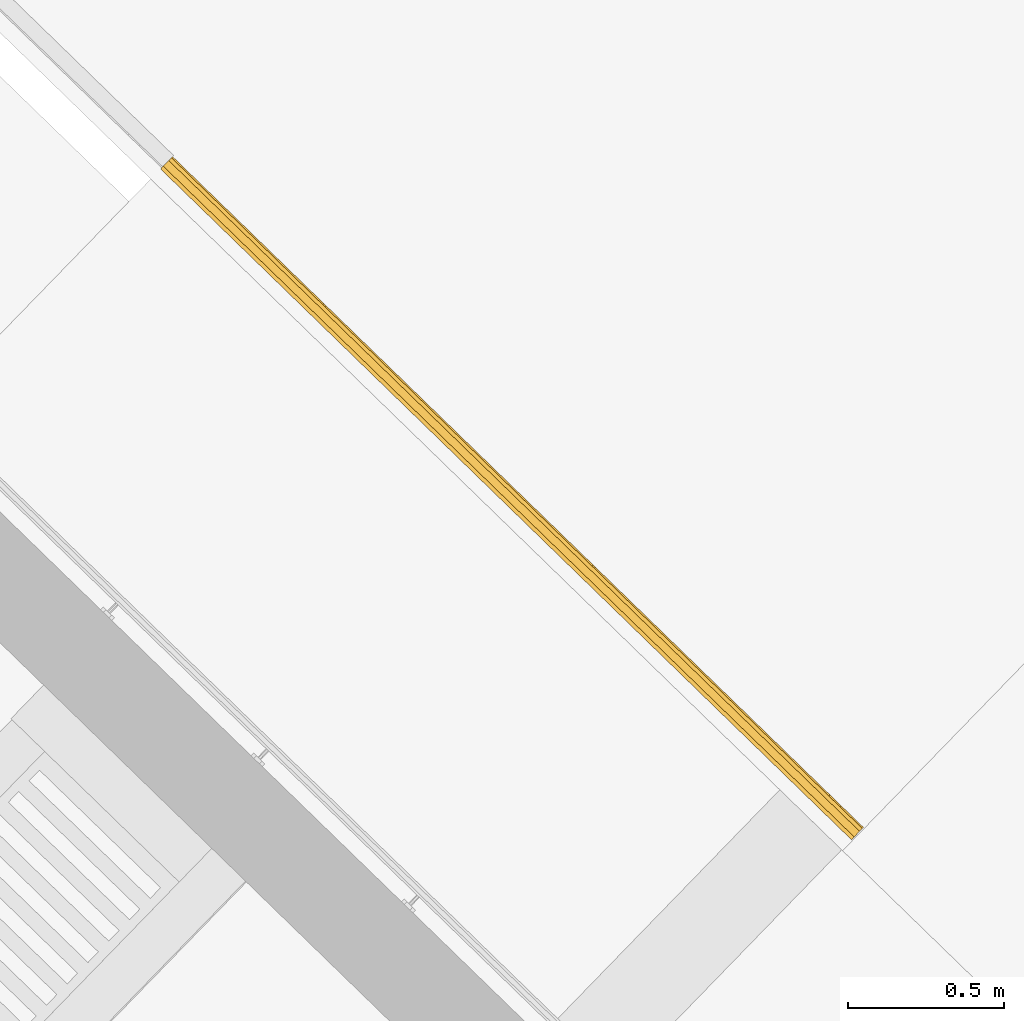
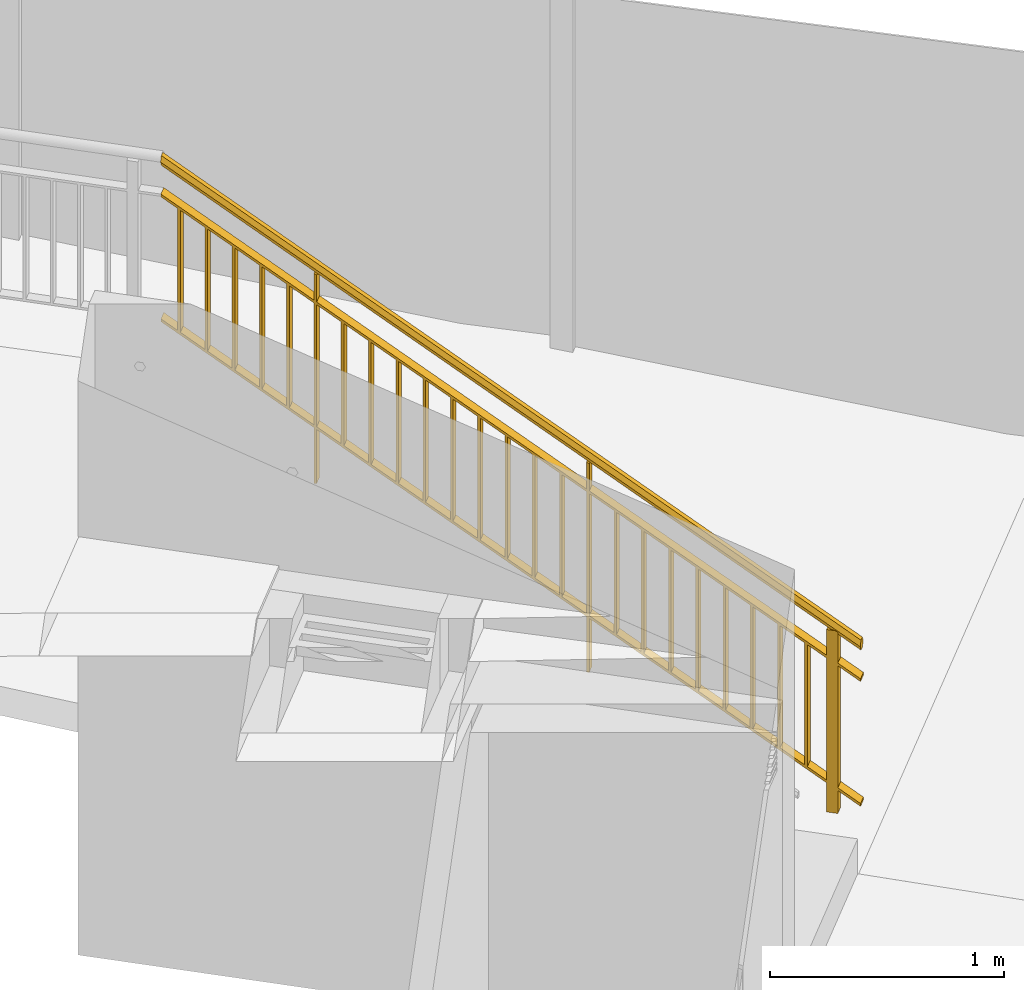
# One storey, part 30 of 37: 1 railing, 1 element without a shape of its own.
"""IFC2X3 building model written with IfcOpenShell, lengths in centimetres."""

from ifc_helpers import new_model, entity, si_unit, converted_unit, derived_unit, direction, frame, origin, place, context, subcontext, project, spatial, faceted_brep, material, element, aggregate, save


model = new_model("IFC2X3")

# Units and contexts
model_context = context("Model", 3, precision=0.001, world=origin(), true_north=direction((0.717475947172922, 0.696583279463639)))
body_context = subcontext(model_context, "Body", "Model", "MODEL_VIEW")
ifc_project = project(units=[si_unit("LENGTHUNIT", "METRE", prefix="CENTI"), si_unit("AREAUNIT", "SQUARE_METRE"), si_unit("VOLUMEUNIT", "CUBIC_METRE"), converted_unit("PLANEANGLEUNIT", "DEGREE", entity("IfcRatioMeasure", 0.0174532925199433), si_unit("PLANEANGLEUNIT", "RADIAN"), dimensions=[0, 0, 0, 0, 0, 0, 0]), si_unit("MASSUNIT", "GRAM", prefix="KILO"), derived_unit("MASSDENSITYUNIT", [(si_unit("MASSUNIT", "GRAM", prefix="KILO"), 1), (si_unit("LENGTHUNIT", "METRE"), -3)]), si_unit("TIMEUNIT", "SECOND"), si_unit("FREQUENCYUNIT", "HERTZ"), si_unit("THERMODYNAMICTEMPERATUREUNIT", "DEGREE_CELSIUS"), derived_unit("THERMALTRANSMITTANCEUNIT", [(si_unit("MASSUNIT", "GRAM", prefix="KILO"), 1), (si_unit("THERMODYNAMICTEMPERATUREUNIT", "KELVIN"), -1), (si_unit("TIMEUNIT", "SECOND"), -3)]), derived_unit("VOLUMETRICFLOWRATEUNIT", [(si_unit("LENGTHUNIT", "METRE"), 3), (si_unit("TIMEUNIT", "SECOND"), -1)]), si_unit("ELECTRICCURRENTUNIT", "AMPERE"), si_unit("ELECTRICVOLTAGEUNIT", "VOLT"), si_unit("POWERUNIT", "WATT"), si_unit("FORCEUNIT", "NEWTON", prefix="KILO"), si_unit("ILLUMINANCEUNIT", "LUX"), si_unit("LUMINOUSFLUXUNIT", "LUMEN"), si_unit("LUMINOUSINTENSITYUNIT", "CANDELA"), derived_unit("USERDEFINED", [(si_unit("MASSUNIT", "GRAM", prefix="KILO"), -1), (si_unit("LENGTHUNIT", "METRE"), -2), (si_unit("TIMEUNIT", "SECOND"), 3), (si_unit("LUMINOUSFLUXUNIT", "LUMEN"), 1)]), derived_unit("LINEARVELOCITYUNIT", [(si_unit("LENGTHUNIT", "METRE"), 1), (si_unit("TIMEUNIT", "SECOND"), -1)]), si_unit("PRESSUREUNIT", "PASCAL"), derived_unit("USERDEFINED", [(si_unit("LENGTHUNIT", "METRE"), -2), (si_unit("MASSUNIT", "GRAM", prefix="KILO"), 1), (si_unit("TIMEUNIT", "SECOND"), -2)])], contexts=[model_context])

# Site, building, storey
site_placement = place(None, frame((0.0, 0.0, 0.0), z_axis=(0.0, 0.0, 1.0), x_axis=(0.696583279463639, 0.717475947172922, 0.0)))
site = spatial("IfcSite", under=ifc_project, at=site_placement, Name="Surface", CompositionType="ELEMENT")
building_placement = place(site_placement, origin())
building = spatial("IfcBuilding", under=site, at=building_placement, CompositionType="ELEMENT")
storey_placement = place(building_placement, origin())
storey = spatial("IfcBuildingStorey", under=building, at=storey_placement, Name="Nivel 0.00", CompositionType="ELEMENT", Elevation=0.0)

# Stair, railing
stair_placement = place(storey_placement, origin())
stair = element("IfcStair", 1, at=stair_placement, inside=storey, Name="Cast-In-Place Stair:Stair", ObjectType="Cast-In-Place Stair:Monolithic Stair", ShapeType="NOTDEFINED")
ifc_material = material(Name="Aluminum")
railing_placement = place(stair_placement, frame((1804.89303608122, -1564.89746350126, -39.723214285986)))
railing = element("IfcRailing", 2, at=railing_placement, material=ifc_material, Name="Railing:BARANDA_RAMPA_1000mm", ObjectType="Railing:BARANDA_RAMPA_1000mm", PredefinedType="NOTDEFINED", context=body_context, shape_type="Brep", body=[
    faceted_brep([(0.65952722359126, 300.600000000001, 201.92202380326), (0.65952722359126, 299.400000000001, 201.143452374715), (0.659527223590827, 299.400000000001, 264.943452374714), (0.659527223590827, 300.600000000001, 265.722023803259), (5.65952722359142, 300.600000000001, 201.92202380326), (5.65952722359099, 300.600000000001, 265.722023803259), (5.65952722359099, 299.400000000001, 264.943452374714), (5.65952722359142, 299.400000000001, 201.143452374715)], [[[0, 1, 2, 3]], [[4, 5, 6, 7]], [[1, 0, 4, 7]], [[2, 1, 7, 6]], [[3, 2, 6, 5]], [[0, 3, 5, 4]]]),
    faceted_brep([(0.65952722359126, 288.600000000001, 194.136309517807), (0.65952722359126, 287.400000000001, 193.357738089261), (0.659527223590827, 287.400000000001, 257.157738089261), (0.659527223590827, 288.600000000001, 257.936309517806), (5.65952722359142, 288.600000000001, 194.136309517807), (5.65952722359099, 288.600000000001, 257.936309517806), (5.65952722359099, 287.400000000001, 257.157738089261), (5.65952722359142, 287.400000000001, 193.357738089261)], [[[0, 1, 2, 3]], [[4, 5, 6, 7]], [[1, 0, 4, 7]], [[2, 1, 7, 6]], [[3, 2, 6, 5]], [[0, 3, 5, 4]]]),
    faceted_brep([(0.65952722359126, 276.600000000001, 186.350595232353), (0.65952722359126, 275.400000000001, 185.572023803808), (0.659527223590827, 275.400000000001, 249.372023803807), (0.659527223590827, 276.600000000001, 250.150595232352), (5.65952722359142, 276.600000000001, 186.350595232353), (5.65952722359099, 276.600000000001, 250.150595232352), (5.65952722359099, 275.400000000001, 249.372023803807), (5.65952722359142, 275.400000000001, 185.572023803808)], [[[0, 1, 2, 3]], [[4, 5, 6, 7]], [[1, 0, 4, 7]], [[2, 1, 7, 6]], [[3, 2, 6, 5]], [[0, 3, 5, 4]]]),
    faceted_brep([(0.65952722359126, 264.6, 178.5648809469), (0.65952722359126, 263.400000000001, 177.786309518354), (0.659527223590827, 263.400000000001, 241.586309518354), (0.659527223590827, 264.6, 242.364880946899), (5.65952722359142, 264.6, 178.5648809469), (5.65952722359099, 264.6, 242.364880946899), (5.65952722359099, 263.400000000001, 241.586309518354), (5.65952722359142, 263.400000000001, 177.786309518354)], [[[0, 1, 2, 3]], [[4, 5, 6, 7]], [[1, 0, 4, 7]], [[2, 1, 7, 6]], [[3, 2, 6, 5]], [[0, 3, 5, 4]]]),
    faceted_brep([(0.65952722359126, 252.600000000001, 170.779166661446), (0.65952722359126, 251.400000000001, 170.000595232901), (0.659527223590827, 251.400000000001, 233.8005952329), (0.659527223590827, 252.600000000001, 234.579166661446), (5.65952722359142, 252.600000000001, 170.779166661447), (5.65952722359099, 252.600000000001, 234.579166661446), (5.65952722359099, 251.400000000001, 233.8005952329), (5.65952722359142, 251.400000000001, 170.000595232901)], [[[0, 1, 2, 3]], [[4, 5, 6, 7]], [[1, 0, 4, 7]], [[2, 1, 7, 6]], [[3, 2, 6, 5]], [[0, 3, 5, 4]]]),
    faceted_brep([(0.65952722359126, 240.600000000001, 132.60416666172), (0.65952722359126, 239.400000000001, 132.60416666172), (0.65952722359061, 239.400000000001, 241.25469261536), (0.65952722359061, 240.600000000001, 242.033264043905), (5.65952722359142, 240.600000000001, 132.60416666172), (5.65952722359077, 240.600000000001, 242.033264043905), (5.65952722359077, 239.400000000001, 241.25469261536), (5.65952722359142, 239.400000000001, 132.60416666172)], [[[0, 1, 2, 3]], [[4, 5, 6, 7]], [[1, 0, 4, 7]], [[2, 1, 7, 6]], [[3, 2, 6, 5]], [[0, 3, 5, 4]]]),
    faceted_brep([(0.65952722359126, 228.6, 155.20773809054), (0.65952722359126, 227.4, 154.429166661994), (0.659527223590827, 227.4, 218.229166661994), (0.659527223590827, 228.6, 219.007738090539), (5.65952722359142, 228.6, 155.20773809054), (5.65952722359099, 228.6, 219.007738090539), (5.65952722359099, 227.4, 218.229166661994), (5.65952722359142, 227.4, 154.429166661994)], [[[0, 1, 2, 3]], [[4, 5, 6, 7]], [[1, 0, 4, 7]], [[2, 1, 7, 6]], [[3, 2, 6, 5]], [[0, 3, 5, 4]]]),
    faceted_brep([(0.65952722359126, 216.600000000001, 147.422023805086), (0.65952722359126, 215.400000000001, 146.643452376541), (0.659527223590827, 215.400000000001, 210.44345237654), (0.659527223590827, 216.600000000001, 211.222023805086), (5.65952722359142, 216.600000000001, 147.422023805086), (5.65952722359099, 216.600000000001, 211.222023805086), (5.65952722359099, 215.400000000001, 210.44345237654), (5.65952722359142, 215.400000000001, 146.643452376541)], [[[0, 1, 2, 3]], [[4, 5, 6, 7]], [[1, 0, 4, 7]], [[2, 1, 7, 6]], [[3, 2, 6, 5]], [[0, 3, 5, 4]]]),
    faceted_brep([(0.65952722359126, 204.6, 139.636309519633), (0.65952722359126, 203.400000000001, 138.857738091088), (0.659527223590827, 203.400000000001, 202.657738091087), (0.659527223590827, 204.6, 203.436309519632), (5.65952722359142, 204.6, 139.636309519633), (5.65952722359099, 204.6, 203.436309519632), (5.65952722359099, 203.400000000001, 202.657738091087), (5.65952722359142, 203.400000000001, 138.857738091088)], [[[0, 1, 2, 3]], [[4, 5, 6, 7]], [[1, 0, 4, 7]], [[2, 1, 7, 6]], [[3, 2, 6, 5]], [[0, 3, 5, 4]]]),
    faceted_brep([(0.65952722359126, 192.6, 131.850595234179), (0.65952722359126, 191.4, 131.072023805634), (0.659527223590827, 191.4, 194.872023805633), (0.659527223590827, 192.6, 195.650595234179), (5.65952722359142, 192.6, 131.850595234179), (5.65952722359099, 192.6, 195.650595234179), (5.65952722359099, 191.4, 194.872023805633), (5.65952722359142, 191.4, 131.072023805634)], [[[0, 1, 2, 3]], [[4, 5, 6, 7]], [[1, 0, 4, 7]], [[2, 1, 7, 6]], [[3, 2, 6, 5]], [[0, 3, 5, 4]]]),
    faceted_brep([(0.65952722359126, 180.600000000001, 124.064880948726), (0.65952722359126, 179.400000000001, 123.286309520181), (0.659527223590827, 179.400000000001, 187.08630952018), (0.659527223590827, 180.600000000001, 187.864880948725), (5.65952722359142, 180.600000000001, 124.064880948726), (5.65952722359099, 180.600000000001, 187.864880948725), (5.65952722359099, 179.400000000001, 187.08630952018), (5.65952722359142, 179.400000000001, 123.286309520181)], [[[0, 1, 2, 3]], [[4, 5, 6, 7]], [[1, 0, 4, 7]], [[2, 1, 7, 6]], [[3, 2, 6, 5]], [[0, 3, 5, 4]]]),
    faceted_brep([(0.65952722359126, 168.6, 116.279166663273), (0.65952722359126, 167.4, 115.500595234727), (0.659527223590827, 167.4, 179.300595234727), (0.659527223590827, 168.6, 180.079166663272), (5.65952722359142, 168.6, 116.279166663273), (5.65952722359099, 168.6, 180.079166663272), (5.65952722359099, 167.4, 179.300595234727), (5.65952722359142, 167.4, 115.500595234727)], [[[0, 1, 2, 3]], [[4, 5, 6, 7]], [[1, 0, 4, 7]], [[2, 1, 7, 6]], [[3, 2, 6, 5]], [[0, 3, 5, 4]]]),
    faceted_brep([(0.65952722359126, 156.600000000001, 108.493452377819), (0.65952722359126, 155.400000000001, 107.714880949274), (0.659527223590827, 155.400000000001, 171.514880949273), (0.659527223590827, 156.600000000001, 172.293452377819), (5.65952722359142, 156.600000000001, 108.493452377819), (5.65952722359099, 156.600000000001, 172.293452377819), (5.65952722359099, 155.400000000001, 171.514880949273), (5.65952722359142, 155.400000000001, 107.714880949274)], [[[0, 1, 2, 3]], [[4, 5, 6, 7]], [[1, 0, 4, 7]], [[2, 1, 7, 6]], [[3, 2, 6, 5]], [[0, 3, 5, 4]]]),
    faceted_brep([(0.65952722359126, 144.6, 100.707738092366), (0.65952722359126, 143.400000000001, 99.9291666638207), (0.659527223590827, 143.400000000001, 163.72916666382), (0.659527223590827, 144.6, 164.507738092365), (5.65952722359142, 144.6, 100.707738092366), (5.65952722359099, 144.6, 164.507738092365), (5.65952722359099, 143.400000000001, 163.72916666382), (5.65952722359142, 143.400000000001, 99.9291666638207)], [[[0, 1, 2, 3]], [[4, 5, 6, 7]], [[1, 0, 4, 7]], [[2, 1, 7, 6]], [[3, 2, 6, 5]], [[0, 3, 5, 4]]]),
    faceted_brep([(0.65952722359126, 132.600000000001, 92.9220238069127), (0.65952722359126, 131.400000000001, 92.1434523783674), (0.659527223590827, 131.400000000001, 155.943452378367), (0.659527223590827, 132.600000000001, 156.722023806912), (5.65952722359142, 132.600000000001, 92.9220238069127), (5.65952722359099, 132.600000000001, 156.722023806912), (5.65952722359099, 131.400000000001, 155.943452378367), (5.65952722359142, 131.400000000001, 92.1434523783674)], [[[0, 1, 2, 3]], [[4, 5, 6, 7]], [[1, 0, 4, 7]], [[2, 1, 7, 6]], [[3, 2, 6, 5]], [[0, 3, 5, 4]]]),
    faceted_brep([(0.65952722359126, 120.600000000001, 54.7470238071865), (0.65952722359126, 119.400000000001, 54.7470238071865), (0.65952722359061, 119.400000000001, 163.397549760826), (0.65952722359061, 120.600000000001, 164.176121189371), (5.65952722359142, 120.600000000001, 54.7470238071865), (5.65952722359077, 120.600000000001, 164.176121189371), (5.65952722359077, 119.400000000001, 163.397549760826), (5.65952722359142, 119.400000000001, 54.7470238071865)], [[[0, 1, 2, 3]], [[4, 5, 6, 7]], [[1, 0, 4, 7]], [[2, 1, 7, 6]], [[3, 2, 6, 5]], [[0, 3, 5, 4]]]),
    faceted_brep([(0.65952722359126, 108.6, 77.3505952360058), (0.65952722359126, 107.4, 76.5720238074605), (0.659527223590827, 107.4, 140.37202380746), (0.659527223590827, 108.6, 141.150595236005), (5.65952722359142, 108.6, 77.3505952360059), (5.65952722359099, 108.6, 141.150595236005), (5.65952722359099, 107.4, 140.37202380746), (5.65952722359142, 107.4, 76.5720238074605)], [[[0, 1, 2, 3]], [[4, 5, 6, 7]], [[1, 0, 4, 7]], [[2, 1, 7, 6]], [[3, 2, 6, 5]], [[0, 3, 5, 4]]]),
    faceted_brep([(0.65952722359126, 96.6000000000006, 69.5648809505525), (0.65952722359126, 95.4000000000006, 68.7863095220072), (0.659527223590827, 95.4000000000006, 132.586309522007), (0.659527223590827, 96.6000000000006, 133.364880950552), (5.65952722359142, 96.6000000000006, 69.5648809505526), (5.65952722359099, 96.6000000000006, 133.364880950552), (5.65952722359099, 95.4000000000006, 132.586309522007), (5.65952722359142, 95.4000000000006, 68.7863095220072)], [[[0, 1, 2, 3]], [[4, 5, 6, 7]], [[1, 0, 4, 7]], [[2, 1, 7, 6]], [[3, 2, 6, 5]], [[0, 3, 5, 4]]]),
    faceted_brep([(0.65952722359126, 84.6000000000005, 61.7791666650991), (0.65952722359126, 83.4000000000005, 61.0005952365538), (0.659527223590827, 83.4000000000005, 124.800595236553), (0.659527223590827, 84.6000000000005, 125.579166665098), (5.65952722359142, 84.6000000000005, 61.7791666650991), (5.65952722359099, 84.6000000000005, 125.579166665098), (5.65952722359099, 83.4000000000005, 124.800595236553), (5.65952722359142, 83.4000000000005, 61.0005952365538)], [[[0, 1, 2, 3]], [[4, 5, 6, 7]], [[1, 0, 4, 7]], [[2, 1, 7, 6]], [[3, 2, 6, 5]], [[0, 3, 5, 4]]]),
    faceted_brep([(0.65952722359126, 72.6000000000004, 53.9934523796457), (0.65952722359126, 71.4000000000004, 53.2148809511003), (0.659527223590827, 71.4000000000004, 117.0148809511), (0.659527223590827, 72.6000000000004, 117.793452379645), (5.65952722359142, 72.6000000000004, 53.9934523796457), (5.65952722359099, 72.6000000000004, 117.793452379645), (5.65952722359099, 71.4000000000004, 117.0148809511), (5.65952722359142, 71.4000000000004, 53.2148809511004)], [[[0, 1, 2, 3]], [[4, 5, 6, 7]], [[1, 0, 4, 7]], [[2, 1, 7, 6]], [[3, 2, 6, 5]], [[0, 3, 5, 4]]]),
    faceted_brep([(0.65952722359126, 60.6000000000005, 46.2077380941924), (0.65952722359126, 59.4000000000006, 45.429166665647), (0.659527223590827, 59.4000000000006, 109.229166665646), (0.659527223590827, 60.6000000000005, 110.007738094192), (5.65952722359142, 60.6000000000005, 46.2077380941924), (5.65952722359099, 60.6000000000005, 110.007738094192), (5.65952722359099, 59.4000000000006, 109.229166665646), (5.65952722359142, 59.4000000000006, 45.4291666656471)], [[[0, 1, 2, 3]], [[4, 5, 6, 7]], [[1, 0, 4, 7]], [[2, 1, 7, 6]], [[3, 2, 6, 5]], [[0, 3, 5, 4]]]),
    faceted_brep([(0.65952722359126, 48.6000000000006, 38.4220238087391), (0.65952722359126, 47.4000000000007, 37.6434523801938), (0.659527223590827, 47.4000000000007, 101.443452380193), (0.659527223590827, 48.6000000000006, 102.222023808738), (5.65952722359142, 48.6000000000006, 38.4220238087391), (5.65952722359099, 48.6000000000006, 102.222023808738), (5.65952722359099, 47.4000000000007, 101.443452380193), (5.65952722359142, 47.4000000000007, 37.6434523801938)], [[[0, 1, 2, 3]], [[4, 5, 6, 7]], [[1, 0, 4, 7]], [[2, 1, 7, 6]], [[3, 2, 6, 5]], [[0, 3, 5, 4]]]),
    faceted_brep([(0.65952722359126, 36.6000000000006, 30.6363095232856), (0.65952722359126, 35.4000000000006, 29.8577380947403), (0.659527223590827, 35.4000000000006, 93.6577380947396), (0.659527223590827, 36.6000000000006, 94.4363095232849), (5.65952722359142, 36.6000000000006, 30.6363095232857), (5.65952722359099, 36.6000000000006, 94.4363095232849), (5.65952722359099, 35.4000000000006, 93.6577380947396), (5.65952722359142, 35.4000000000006, 29.8577380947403)], [[[0, 1, 2, 3]], [[4, 5, 6, 7]], [[1, 0, 4, 7]], [[2, 1, 7, 6]], [[3, 2, 6, 5]], [[0, 3, 5, 4]]]),
    faceted_brep([(0.65952722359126, 24.6000000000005, 22.8505952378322), (0.65952722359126, 23.4000000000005, 22.0720238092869), (0.659527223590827, 23.4000000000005, 85.8720238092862), (0.659527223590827, 24.6000000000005, 86.6505952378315), (5.65952722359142, 24.6000000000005, 22.8505952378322), (5.65952722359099, 24.6000000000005, 86.6505952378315), (5.65952722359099, 23.4000000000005, 85.8720238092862), (5.65952722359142, 23.4000000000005, 22.0720238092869)], [[[0, 1, 2, 3]], [[4, 5, 6, 7]], [[1, 0, 4, 7]], [[2, 1, 7, 6]], [[3, 2, 6, 5]], [[0, 3, 5, 4]]]),
    faceted_brep([(0.65952722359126, 12.6000000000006, 15.0648809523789), (0.65952722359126, 11.4000000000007, 14.2863095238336), (0.659527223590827, 11.4000000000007, 78.0863095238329), (0.659527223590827, 12.6000000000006, 78.8648809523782), (5.65952722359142, 12.6000000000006, 15.0648809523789), (5.65952722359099, 12.6000000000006, 78.8648809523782), (5.65952722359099, 11.4000000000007, 78.0863095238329), (5.65952722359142, 11.4000000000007, 14.2863095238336)], [[[0, 1, 2, 3]], [[4, 5, 6, 7]], [[1, 0, 4, 7]], [[2, 1, 7, 6]], [[3, 2, 6, 5]], [[0, 3, 5, 4]]]),
    faceted_brep([(0.659527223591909, 10.0, 95.0), (5.65952722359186, 10.0, 95.0), (5.65952722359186, 15.0, 95.0), (0.659527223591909, 15.0, 95.0), (0.659527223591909, 10.0, 0.0), (0.659527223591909, 15.0, 0.0), (5.65952722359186, 15.0, 0.0), (5.65952722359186, 10.0, 0.0)], [[[0, 1, 2, 3]], [[4, 5, 6, 7]], [[1, 0, 4, 7]], [[2, 1, 7, 6]], [[3, 2, 6, 5]], [[0, 3, 5, 4]]]),
    faceted_brep([(5.65952722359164, 0.0, 71.8898809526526), (0.659527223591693, 0.0, 71.8898809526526), (0.659527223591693, 0.0, 70.4594357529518), (5.65952722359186, 0.0, 70.4594357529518), (5.65952722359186, 308.0, 271.723214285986), (5.65952722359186, 308.0, 270.292769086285), (0.659527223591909, 308.0, 270.292769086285), (0.659527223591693, 308.0, 271.723214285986)], [[[0, 1, 2, 3]], [[4, 5, 6, 7]], [[1, 0, 4, 7]], [[2, 1, 7, 6]], [[3, 2, 6, 5]], [[0, 3, 5, 4]]]),
    faceted_brep([(5.65952722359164, 0.0, 6.8898809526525), (0.659527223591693, 0.0, 6.8898809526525), (0.659527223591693, 0.0, 5.45943575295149), (5.65952722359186, 0.0, 5.45943575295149), (5.65952722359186, 308.0, 206.723214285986), (5.65952722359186, 308.0, 205.292769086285), (0.659527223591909, 308.0, 205.292769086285), (0.659527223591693, 308.0, 206.723214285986)], [[[0, 1, 2, 3]], [[4, 5, 6, 7]], [[1, 0, 4, 7]], [[2, 1, 7, 6]], [[3, 2, 6, 5]], [[0, 3, 5, 4]]]),
    faceted_brep([(4.22202722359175, 0.0, 86.9741588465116), (4.53452722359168, 0.0, 87.6193681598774), (4.84702722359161, 0.0, 88.2645774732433), (5.15952722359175, 0.0, 88.9097867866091), (4.84390997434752, 0.0, 89.5614321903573), (4.5282927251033, 0.0, 90.2130775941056), (4.21890997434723, 0.0, 90.851850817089), (3.9095272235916, 0.0, 91.4906240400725), (3.28452722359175, 0.0, 91.4906240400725), (2.65952722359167, 0.0, 91.4906240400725), (2.03452722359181, 0.0, 91.4906240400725), (1.40952722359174, 0.0, 91.4906240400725), (1.09702722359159, 0.0, 90.8454147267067), (0.784527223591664, 0.0, 90.2002054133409), (0.475144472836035, 0.0, 89.5614321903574), (0.15952722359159, 0.0, 88.9097867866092), (0.475144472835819, 0.0, 88.258141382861), (0.784527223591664, 0.0, 87.6193681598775), (1.09702722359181, 0.0, 86.9741588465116), (1.40952722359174, 0.0, 86.3289495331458), (2.0345272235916, 0.0, 86.3289495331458), (2.65952722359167, 0.0, 86.3289495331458), (3.28452722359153, 0.0, 86.3289495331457), (3.9095272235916, 0.0, 86.3289495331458), (1.40952722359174, 308.0, 286.162282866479), (1.10014447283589, 308.0, 286.801056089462), (0.790761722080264, 308.0, 287.439829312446), (0.475144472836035, 308.0, 288.091474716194), (0.15952722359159, 308.0, 288.743120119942), (0.472027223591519, 308.0, 289.388329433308), (0.784527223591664, 308.0, 290.033538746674), (1.09702722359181, 308.0, 290.67874806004), (1.40952722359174, 308.0, 291.323957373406), (2.03452722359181, 308.0, 291.323957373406), (2.65952722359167, 308.0, 291.323957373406), (3.28452722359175, 308.0, 291.323957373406), (3.9095272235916, 308.0, 291.323957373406), (4.22202722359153, 308.0, 290.67874806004), (4.53452722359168, 308.0, 290.033538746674), (4.84390997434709, 308.0, 289.394765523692), (5.15952722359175, 308.0, 288.743120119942), (4.84390997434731, 308.0, 288.091474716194), (4.53452722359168, 308.0, 287.452701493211), (4.22202722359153, 308.0, 286.807492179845), (3.9095272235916, 308.0, 286.162282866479), (3.28452722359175, 308.0, 286.162282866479), (2.65952722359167, 308.0, 286.162282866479), (2.03452722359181, 308.0, 286.162282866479)], [[[0, 1, 2, 3, 4, 5, 6, 7, 8, 9, 10, 11, 12, 13, 14, 15, 16, 17, 18, 19, 20, 21, 22, 23]], [[24, 25, 26, 27, 28, 29, 30, 31, 32, 33, 34, 35, 36, 37, 38, 39, 40, 41, 42, 43, 44, 45, 46, 47]], [[33, 32, 11, 10, 9, 8, 7, 36, 35, 34]], [[13, 12, 11, 32, 31, 30, 29, 28, 15, 14]], [[38, 37, 36, 7, 6, 5, 4, 3, 40, 39]], [[19, 18, 17, 16, 15, 28, 27, 26, 25, 24]], [[45, 44, 23, 22, 21, 20, 19, 24, 47, 46]], [[40, 3, 2, 1, 0, 23, 44, 43, 42, 41]]]),
])
aggregate(stair, [railing])

save(model, "model.ifc")
